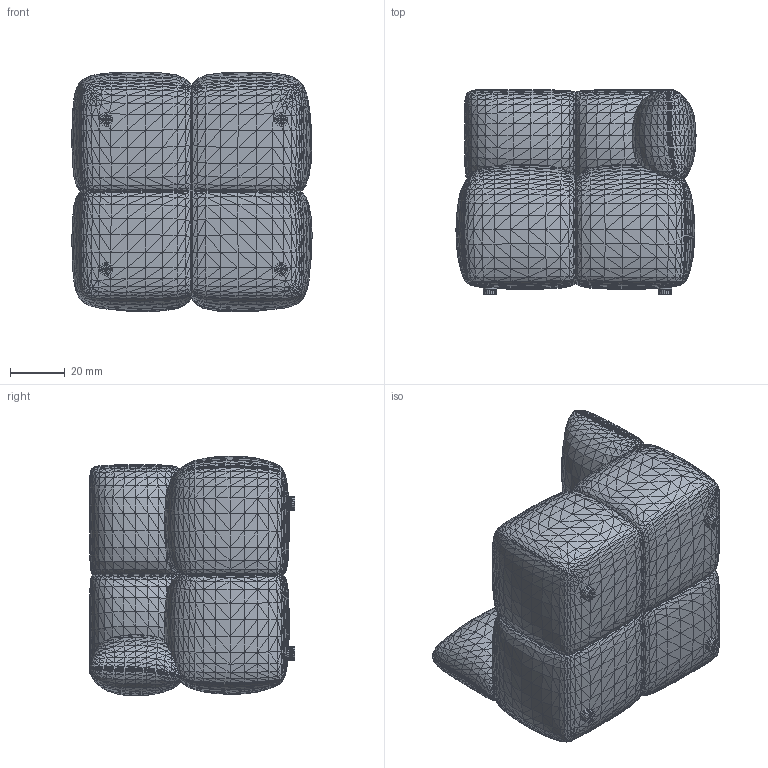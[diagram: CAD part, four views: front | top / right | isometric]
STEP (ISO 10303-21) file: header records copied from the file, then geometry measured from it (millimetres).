
FILE_DESCRIPTION((''),'2;1');
FILE_NAME('Corne_2', '2025-04-29T13:20:29', (''), (''), 'ImageToStl.com STEP Converter','', '');
FILE_SCHEMA(('AUTOMOTIVE_DESIGN_CC2'));
Length unit declared in the file: metre
Products named in the file (3): product0; product1; product2
Bounding box: 87.8 x 75.02 x 87.75 mm (x, y, z)
Topology: 0 solids, 11992 shells, 11992 faces, 35944 edges, 6850 vertices
Faces by surface type: plane 11992
Entity records: 277570 total; most frequent: DIRECTION 59962, ORIENTED_EDGE 35976, EDGE_CURVE 35976, LINE 35976, VECTOR 35976, AXIS2_PLACEMENT_3D 11993, FACE_SURFACE 11992, PLANE 11992
